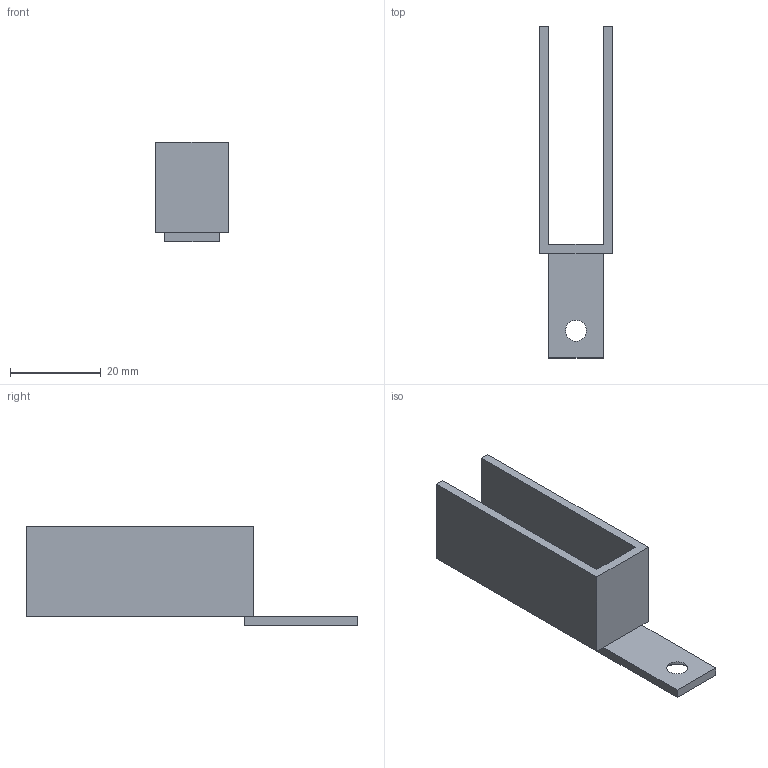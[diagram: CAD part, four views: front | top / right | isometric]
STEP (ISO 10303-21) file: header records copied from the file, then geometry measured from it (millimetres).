
FILE_DESCRIPTION(/* description */ (''),/* implementation_level */ '2;1');
FILE_NAME(/* name */ 'Hook1',/* time_stamp */ '2026-08-18T16:37:53+02:00',/* author */ (''),/* organization */ (''),/* preprocessor_version */ 'ST-DEVELOPER v19.2',/* originating_system */ 'Rhino 8.34',/* authorisation */ '');
FILE_SCHEMA (('CONFIG_CONTROL_DESIGN'));
Length unit declared in the file: millimetre
Products named in the file (1): Document
Bounding box: 16 x 73 x 22 mm (x, y, z)
Volume: 5009.9 mm3; surface area: 5695.3 mm2
Topology: 1 solids, 1 shells, 22 faces, 52 edges, 32 vertices
Faces by surface type: plane 16, bspline 6
Entity records: 746 total; most frequent: CARTESIAN_POINT 250, ORIENTED_EDGE 104, EDGE_CURVE 52, DIRECTION 44, B_SPLINE_CURVE_WITH_KNOTS 38, VERTEX_POINT 32, AXIS2_PLACEMENT_3D 30, EDGE_LOOP 24
